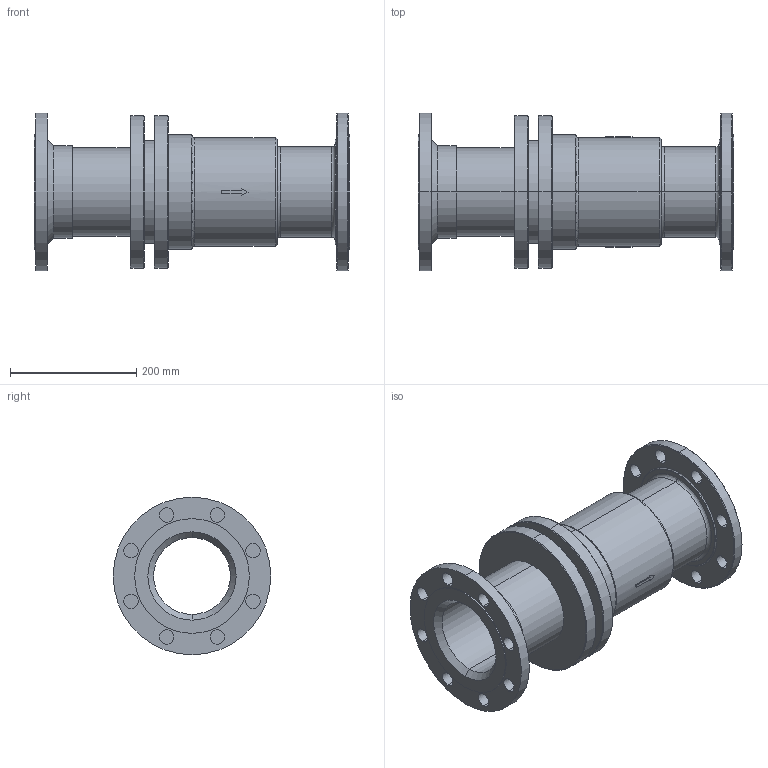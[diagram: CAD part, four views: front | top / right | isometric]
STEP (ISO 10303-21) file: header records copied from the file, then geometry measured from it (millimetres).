
FILE_DESCRIPTION( (''), '2;1');
FILE_NAME ('PC1027.9516.ES-10-100 125A_8832.stp','2025-07-30T13:06:50',(''),(''),'spGate 20.6.3 (****-****-****-****)','','');
FILE_SCHEMA (('AUTOMOTIVE_DESIGN'));
Length unit declared in the file: millimetre
Bounding box: 500 x 250 x 250 mm (x, y, z)
Volume: 5900807.2 mm3; surface area: 710301.8 mm2
Topology: 1 solids, 1 shells, 122 faces, 290 edges, 184 vertices
Faces by surface type: cylinder 60, bspline 32, plane 30
Entity records: 6251 total; most frequent: CARTESIAN_POINT 1180, ORIENTED_EDGE 580, DIRECTION 536, COLOUR_RGB 413, PRESENTATION_STYLE_ASSIGNMENT 413, STYLED_ITEM 413, EDGE_CURVE 290, DRAUGHTING_PRE_DEFINED_CURVE_FONT 290
